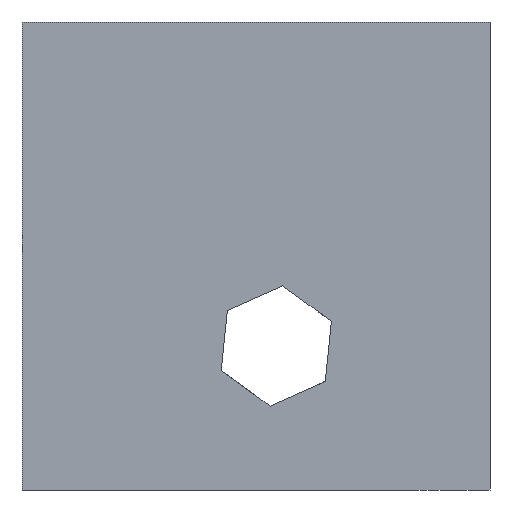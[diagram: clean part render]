
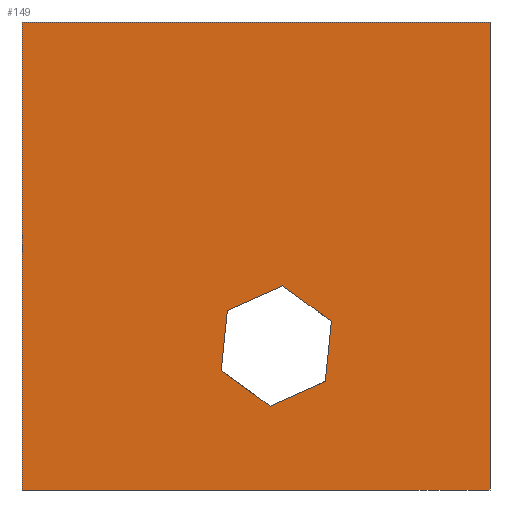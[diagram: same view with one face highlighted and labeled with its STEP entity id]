
A CAD part, front view. The second image highlights one B-rep face of the part: STEP entity #149.
In plain terms, the highlighted planar face has unit normal (0, -1, 0).
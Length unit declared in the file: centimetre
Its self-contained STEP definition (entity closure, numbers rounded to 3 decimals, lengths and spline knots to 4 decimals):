
#2 = LINE ( 'NONE', #1156, #1088 ) ;
#6 = CARTESIAN_POINT ( 'NONE',  ( 425.6137, 0., 255.0611 ) ) ;
#17 = DIRECTION ( 'NONE',  ( 0.81, 0., -0.586 ) ) ;
#22 = VERTEX_POINT ( 'NONE', #47 ) ;
#23 = DIRECTION ( 'NONE',  ( 1., 0., 0. ) ) ;
#47 = CARTESIAN_POINT ( 'NONE',  ( 1000., 0., 0. ) ) ;
#52 = ORIENTED_EDGE ( 'NONE', *, *, #323, .T. ) ;
#75 = CARTESIAN_POINT ( 'NONE',  ( 661.1189, 0., 360.591 ) ) ;
#91 = DIRECTION ( 'NONE',  ( 0., 1., 0. ) ) ;
#97 = EDGE_LOOP ( 'NONE', ( #893, #796, #52, #1111, #859, #340 ) ) ;
#112 = CARTESIAN_POINT ( 'NONE',  ( 556.5469, 0., 436.1853 ) ) ;
#116 = VERTEX_POINT ( 'NONE', #75 ) ;
#122 = VERTEX_POINT ( 'NONE', #264 ) ;
#125 = DIRECTION ( 'NONE',  ( 1., 0., 0. ) ) ;
#143 = VERTEX_POINT ( 'NONE', #373 ) ;
#149 = ADVANCED_FACE ( 'NONE', ( #1131, #847 ), #758, .F. ) ;
#172 = CARTESIAN_POINT ( 'NONE',  ( 438.7942, 0., 383.4204 ) ) ;
#176 = VERTEX_POINT ( 'NONE', #172 ) ;
#194 = CARTESIAN_POINT ( 'NONE',  ( 0., 0., 1000. ) ) ;
#200 = EDGE_CURVE ( 'NONE', #116, #122, #1048, .T. ) ;
#226 = EDGE_CURVE ( 'NONE', #1201, #116, #870, .T. ) ;
#228 = AXIS2_PLACEMENT_3D ( 'NONE', #194, #91, #1239 ) ;
#240 = VECTOR ( 'NONE', #991, 100. ) ;
#264 = CARTESIAN_POINT ( 'NONE',  ( 647.9384, 0., 232.2318 ) ) ;
#315 = CARTESIAN_POINT ( 'NONE',  ( 438.7942, 0., 383.4204 ) ) ;
#320 = DIRECTION ( 'NONE',  ( 0.102, 0., 0.995 ) ) ;
#323 = EDGE_CURVE ( 'NONE', #122, #336, #401, .T. ) ;
#329 = ORIENTED_EDGE ( 'NONE', *, *, #1008, .F. ) ;
#336 = VERTEX_POINT ( 'NONE', #703 ) ;
#340 = ORIENTED_EDGE ( 'NONE', *, *, #1017, .T. ) ;
#348 = EDGE_CURVE ( 'NONE', #143, #22, #698, .T. ) ;
#352 = VECTOR ( 'NONE', #320, 100. ) ;
#360 = DIRECTION ( 'NONE',  ( -0.81, 0., 0.586 ) ) ;
#373 = CARTESIAN_POINT ( 'NONE',  ( 0., 0., 0. ) ) ;
#384 = DIRECTION ( 'NONE',  ( 0., 0., -1. ) ) ;
#401 = LINE ( 'NONE', #688, #240 ) ;
#410 = CARTESIAN_POINT ( 'NONE',  ( 0., 0., 1000. ) ) ;
#437 = EDGE_CURVE ( 'NONE', #707, #176, #700, .T. ) ;
#474 = CARTESIAN_POINT ( 'NONE',  ( 556.5469, 0., 436.1853 ) ) ;
#480 = DIRECTION ( 'NONE',  ( -0.102, 0., -0.995 ) ) ;
#533 = EDGE_CURVE ( 'NONE', #1234, #22, #2, .T. ) ;
#542 = CARTESIAN_POINT ( 'NONE',  ( 0., 0., 1000. ) ) ;
#555 = LINE ( 'NONE', #1121, #940 ) ;
#567 = CARTESIAN_POINT ( 'NONE',  ( 661.1189, 0., 360.591 ) ) ;
#581 = VECTOR ( 'NONE', #23, 100. ) ;
#598 = LINE ( 'NONE', #410, #732 ) ;
#632 = LINE ( 'NONE', #542, #978 ) ;
#667 = CARTESIAN_POINT ( 'NONE',  ( 1000., 0., 1000. ) ) ;
#688 = CARTESIAN_POINT ( 'NONE',  ( 647.9384, 0., 232.2318 ) ) ;
#698 = LINE ( 'NONE', #781, #581 ) ;
#700 = LINE ( 'NONE', #6, #352 ) ;
#703 = CARTESIAN_POINT ( 'NONE',  ( 530.1858, 0., 179.4669 ) ) ;
#707 = VERTEX_POINT ( 'NONE', #710 ) ;
#708 = DIRECTION ( 'NONE',  ( 0.913, 0., 0.409 ) ) ;
#710 = CARTESIAN_POINT ( 'NONE',  ( 425.6137, 0., 255.0611 ) ) ;
#732 = VECTOR ( 'NONE', #125, 100. ) ;
#755 = EDGE_CURVE ( 'NONE', #336, #707, #555, .T. ) ;
#758 = PLANE ( 'NONE',  #228 ) ;
#772 = VECTOR ( 'NONE', #708, 100. ) ;
#781 = CARTESIAN_POINT ( 'NONE',  ( 0., 0., 0. ) ) ;
#796 = ORIENTED_EDGE ( 'NONE', *, *, #200, .T. ) ;
#811 = LINE ( 'NONE', #315, #772 ) ;
#828 = DIRECTION ( 'NONE',  ( 0., 0., -1. ) ) ;
#836 = VERTEX_POINT ( 'NONE', #846 ) ;
#846 = CARTESIAN_POINT ( 'NONE',  ( 0., 0., 1000. ) ) ;
#847 = FACE_OUTER_BOUND ( 'NONE', #1189, .T. ) ;
#859 = ORIENTED_EDGE ( 'NONE', *, *, #437, .T. ) ;
#868 = VECTOR ( 'NONE', #17, 100. ) ;
#870 = LINE ( 'NONE', #112, #868 ) ;
#893 = ORIENTED_EDGE ( 'NONE', *, *, #226, .T. ) ;
#939 = ORIENTED_EDGE ( 'NONE', *, *, #533, .F. ) ;
#940 = VECTOR ( 'NONE', #360, 100. ) ;
#978 = VECTOR ( 'NONE', #828, 100. ) ;
#991 = DIRECTION ( 'NONE',  ( -0.913, 0., -0.409 ) ) ;
#1008 = EDGE_CURVE ( 'NONE', #836, #1234, #598, .T. ) ;
#1017 = EDGE_CURVE ( 'NONE', #176, #1201, #811, .T. ) ;
#1043 = ORIENTED_EDGE ( 'NONE', *, *, #348, .T. ) ;
#1048 = LINE ( 'NONE', #567, #1092 ) ;
#1088 = VECTOR ( 'NONE', #384, 100. ) ;
#1092 = VECTOR ( 'NONE', #480, 100. ) ;
#1111 = ORIENTED_EDGE ( 'NONE', *, *, #755, .T. ) ;
#1121 = CARTESIAN_POINT ( 'NONE',  ( 530.1858, 0., 179.4669 ) ) ;
#1131 = FACE_BOUND ( 'NONE', #97, .T. ) ;
#1156 = CARTESIAN_POINT ( 'NONE',  ( 1000., 0., 1000. ) ) ;
#1189 = EDGE_LOOP ( 'NONE', ( #1043, #939, #329, #1221 ) ) ;
#1201 = VERTEX_POINT ( 'NONE', #474 ) ;
#1221 = ORIENTED_EDGE ( 'NONE', *, *, #1224, .T. ) ;
#1224 = EDGE_CURVE ( 'NONE', #836, #143, #632, .T. ) ;
#1234 = VERTEX_POINT ( 'NONE', #667 ) ;
#1239 = DIRECTION ( 'NONE',  ( 0., 0., 1. ) ) ;
